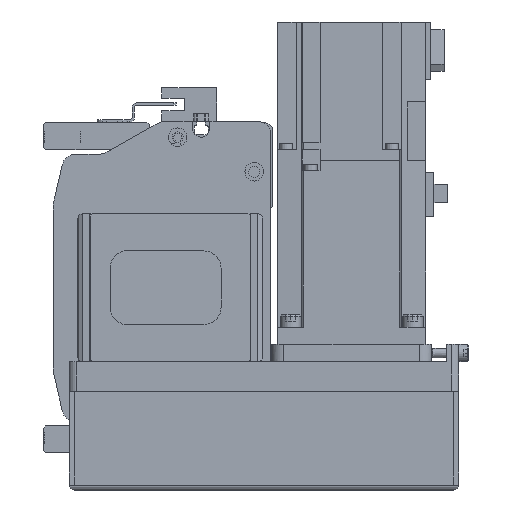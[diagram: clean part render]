
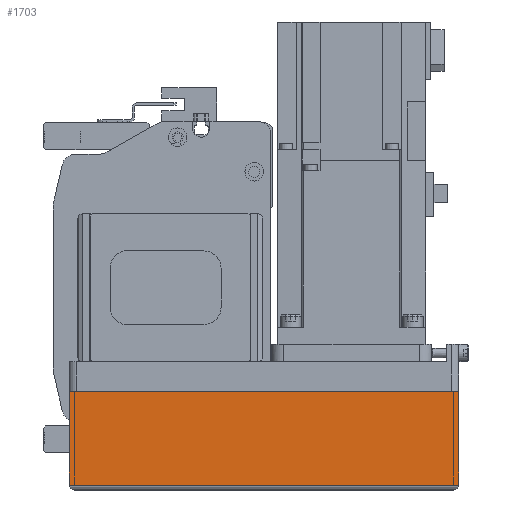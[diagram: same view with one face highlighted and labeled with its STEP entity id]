
A CAD part, left-side view. The second image highlights one B-rep face of the part: STEP entity #1703.
In plain terms, the highlighted planar face has unit normal (-1, 0, 0) as drawn and (0, 1, 0) by its records, which use the part's own axes.
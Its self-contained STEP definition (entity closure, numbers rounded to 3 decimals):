
#1703 = ADVANCED_FACE( '', ( #4234 ), #4235, .T. );
#4234 = FACE_OUTER_BOUND( '', #7862, .T. );
#4235 = PLANE( '', #7863 );
#7862 = EDGE_LOOP( '', ( #12740, #12741, #12742, #12743 ) );
#7863 = AXIS2_PLACEMENT_3D( '', #12744, #12745, #12746 );
#12740 = ORIENTED_EDGE( '', *, *, #21529, .F. );
#12741 = ORIENTED_EDGE( '', *, *, #21530, .F. );
#12742 = ORIENTED_EDGE( '', *, *, #21531, .T. );
#12743 = ORIENTED_EDGE( '', *, *, #21532, .T. );
#12744 = CARTESIAN_POINT( '', ( -158., 39., -50. ) );
#12745 = DIRECTION( '', ( 0., 1., 0. ) );
#12746 = DIRECTION( '', ( 0., 0., 1. ) );
#21529 = EDGE_CURVE( '', #26125, #25459, #26126, .T. );
#21530 = EDGE_CURVE( '', #26127, #26125, #26128, .T. );
#21531 = EDGE_CURVE( '', #26127, #26129, #26130, .T. );
#21532 = EDGE_CURVE( '', #26129, #25459, #26131, .T. );
#25459 = VERTEX_POINT( '', #31665 );
#26125 = VERTEX_POINT( '', #32712 );
#26126 = LINE( '', #32713, #32714 );
#26127 = VERTEX_POINT( '', #32715 );
#26128 = LINE( '', #32716, #32717 );
#26129 = VERTEX_POINT( '', #32718 );
#26130 = LINE( '', #32719, #32720 );
#26131 = LINE( '', #32721, #32722 );
#31665 = CARTESIAN_POINT( '', ( 0., 39., -12.1 ) );
#32712 = CARTESIAN_POINT( '', ( 0., 39., -50. ) );
#32713 = CARTESIAN_POINT( '', ( 0., 39., -50. ) );
#32714 = VECTOR( '', #39685, 1000. );
#32715 = CARTESIAN_POINT( '', ( -158., 39., -50. ) );
#32716 = CARTESIAN_POINT( '', ( -158., 39., -50. ) );
#32717 = VECTOR( '', #39686, 1000. );
#32718 = CARTESIAN_POINT( '', ( -158., 39., -12.1 ) );
#32719 = CARTESIAN_POINT( '', ( -158., 39., -50. ) );
#32720 = VECTOR( '', #39687, 1000. );
#32721 = CARTESIAN_POINT( '', ( -158., 39., -12.1 ) );
#32722 = VECTOR( '', #39688, 1000. );
#39685 = DIRECTION( '', ( 0., 0., 1. ) );
#39686 = DIRECTION( '', ( 1., 0., 0. ) );
#39687 = DIRECTION( '', ( 0., 0., 1. ) );
#39688 = DIRECTION( '', ( 1., 0., 0. ) );
